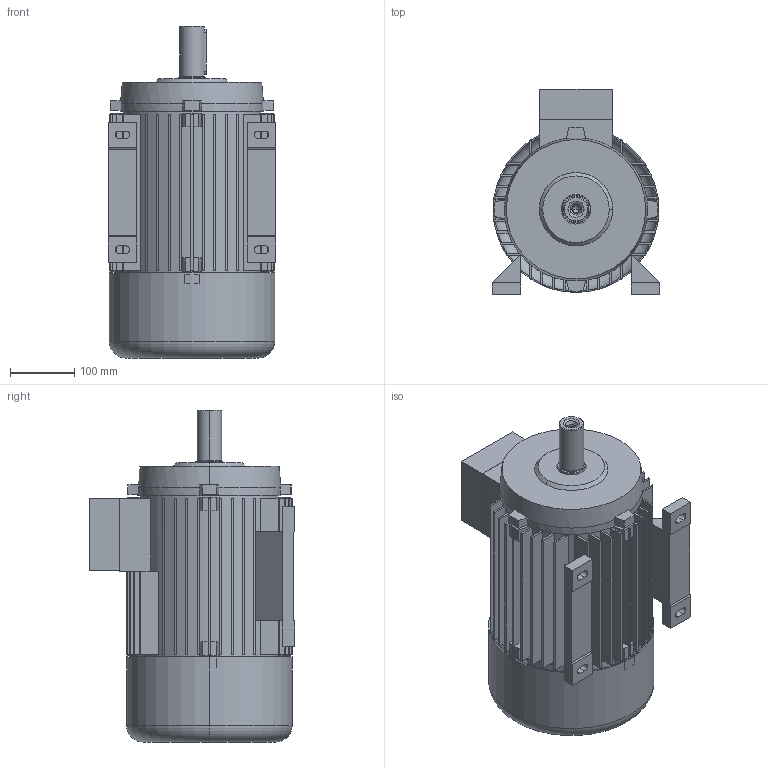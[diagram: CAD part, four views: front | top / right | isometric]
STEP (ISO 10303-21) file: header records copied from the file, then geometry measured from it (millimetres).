
FILE_DESCRIPTION (( 'STEP AP203' ), '1' );
FILE_NAME ('5AZ 132M B3 STANDK.STEP', '2017-10-30T13:34:34', ( '' ), ( '' ), 'SwSTEP 2.0', 'SolidWorks 2017', '' );
FILE_SCHEMA (( 'CONFIG_CONTROL_DESIGN' ));
Length unit declared in the file: millimetre
Products named in the file (1): 5AZ 132M B3 STANDK
Bounding box: 260 x 318 x 515 mm (x, y, z)
Volume: 5881288.8 mm3; surface area: 1509253.5 mm2
Topology: 7 solids, 7 shells, 415 faces, 1056 edges, 695 vertices
Faces by surface type: plane 278, cylinder 111, cone 22, torus 4
Entity records: 12763 total; most frequent: CARTESIAN_POINT 2285, DIRECTION 2252, ORIENTED_EDGE 2108, EDGE_CURVE 1054, AXIS2_PLACEMENT_3D 802, VERTEX_POINT 695, VECTOR 648, LINE 648
